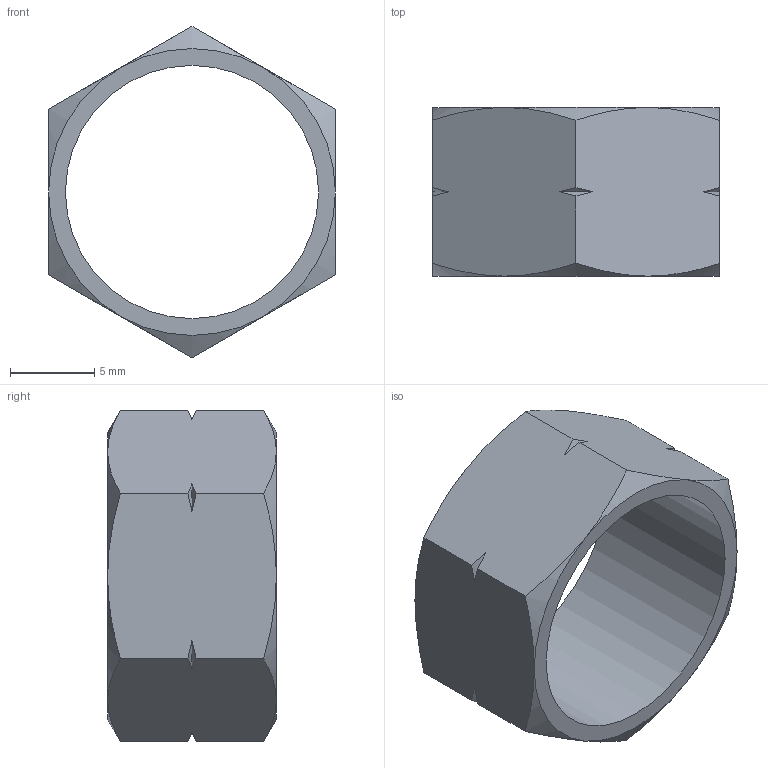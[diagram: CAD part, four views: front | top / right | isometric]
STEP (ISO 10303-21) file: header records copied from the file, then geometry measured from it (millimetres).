
FILE_DESCRIPTION(/* description */ (''),/* implementation_level */ '2;1');
FILE_NAME(/* name */ '\\Cdcserver-pc\연구실\연구실\2D, 3D 파일 통합 폴더\CDCpneumatics\3D\CDC Products 3D Ass''y\Two-Touch Fitting BSBM\Metric\NUT\NUT 10.stp',/* time_stamp */ '2021-07-20T11:14:48+09:00',/* author */ ('DIAMOND'),/* organization */ (''),/* preprocessor_version */ 'ST-DEVELOPER v16.1',/* originating_system */ 'Autodesk Inventor 2016',/* authorisation */ '');
FILE_SCHEMA (('AUTOMOTIVE_DESIGN { 1 0 10303 214 3 1 1 }'));
Length unit declared in the file: millimetre
Products named in the file (1): NUT 10
Bounding box: 17 x 10 x 19.63 mm (x, y, z)
Volume: 724.5 mm3; surface area: 1186.8 mm2
Topology: 1 solids, 1 shells, 33 faces, 81 edges, 50 vertices
Faces by surface type: cone 24, plane 8, cylinder 1
Full cylindrical faces by diameter (mm): 15 x1
Entity records: 934 total; most frequent: CARTESIAN_POINT 260, ORIENTED_EDGE 160, DIRECTION 120, EDGE_CURVE 80, AXIS2_PLACEMENT_3D 54, VERTEX_POINT 50, EDGE_LOOP 36, FACE_OUTER_BOUND 33
